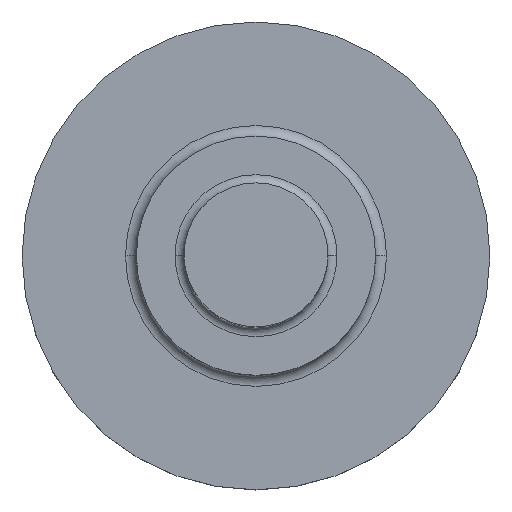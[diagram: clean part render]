
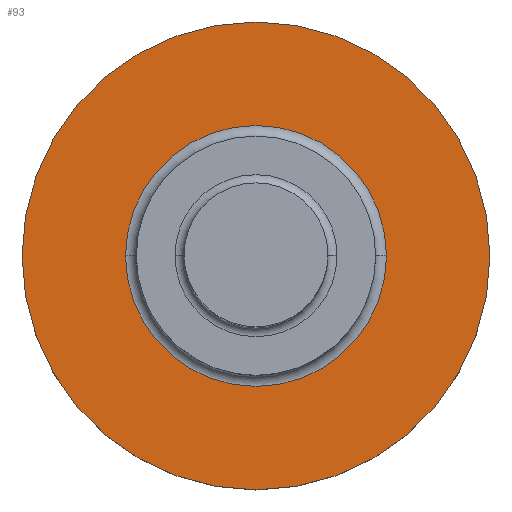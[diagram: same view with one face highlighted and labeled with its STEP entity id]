
A CAD part, top view. The second image highlights one B-rep face of the part: STEP entity #93.
In plain terms, the highlighted planar face has unit normal (0, 0, 1).
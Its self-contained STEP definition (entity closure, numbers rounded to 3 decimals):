
#48 = VERTEX_POINT('',#49);
#49 = CARTESIAN_POINT('',(-6.5,0.,2.));
#55 = EDGE_CURVE('',#56,#48,#58,.T.);
#56 = VERTEX_POINT('',#57);
#57 = CARTESIAN_POINT('',(6.5,0.,2.));
#58 = CIRCLE('',#59,6.5);
#59 = AXIS2_PLACEMENT_3D('',#60,#61,#62);
#60 = CARTESIAN_POINT('',(0.,0.,2.));
#61 = DIRECTION('',(0.,0.,1.));
#62 = DIRECTION('',(1.,0.,0.));
#80 = EDGE_CURVE('',#48,#56,#81,.T.);
#81 = CIRCLE('',#82,6.5);
#82 = AXIS2_PLACEMENT_3D('',#83,#84,#85);
#83 = CARTESIAN_POINT('',(0.,0.,2.));
#84 = DIRECTION('',(0.,0.,1.));
#85 = DIRECTION('',(-1.,0.,0.));
#93 = ADVANCED_FACE('',(#94,#98),#118,.T.);
#94 = FACE_BOUND('',#95,.F.);
#95 = EDGE_LOOP('',(#96,#97));
#96 = ORIENTED_EDGE('',*,*,#55,.F.);
#97 = ORIENTED_EDGE('',*,*,#80,.F.);
#98 = FACE_BOUND('',#99,.F.);
#99 = EDGE_LOOP('',(#100,#111));
#100 = ORIENTED_EDGE('',*,*,#101,.T.);
#101 = EDGE_CURVE('',#102,#104,#106,.T.);
#102 = VERTEX_POINT('',#103);
#103 = CARTESIAN_POINT('',(-3.625,0.,2.));
#104 = VERTEX_POINT('',#105);
#105 = CARTESIAN_POINT('',(3.625,0.,2.));
#106 = CIRCLE('',#107,3.625);
#107 = AXIS2_PLACEMENT_3D('',#108,#109,#110);
#108 = CARTESIAN_POINT('',(0.,0.,2.));
#109 = DIRECTION('',(0.,0.,1.));
#110 = DIRECTION('',(-1.,0.,0.));
#111 = ORIENTED_EDGE('',*,*,#112,.T.);
#112 = EDGE_CURVE('',#104,#102,#113,.T.);
#113 = CIRCLE('',#114,3.625);
#114 = AXIS2_PLACEMENT_3D('',#115,#116,#117);
#115 = CARTESIAN_POINT('',(0.,0.,2.));
#116 = DIRECTION('',(0.,0.,1.));
#117 = DIRECTION('',(1.,0.,0.));
#118 = PLANE('',#119);
#119 = AXIS2_PLACEMENT_3D('',#120,#121,#122);
#120 = CARTESIAN_POINT('',(0.,0.,2.));
#121 = DIRECTION('',(0.,0.,1.));
#122 = DIRECTION('',(1.,0.,0.));
